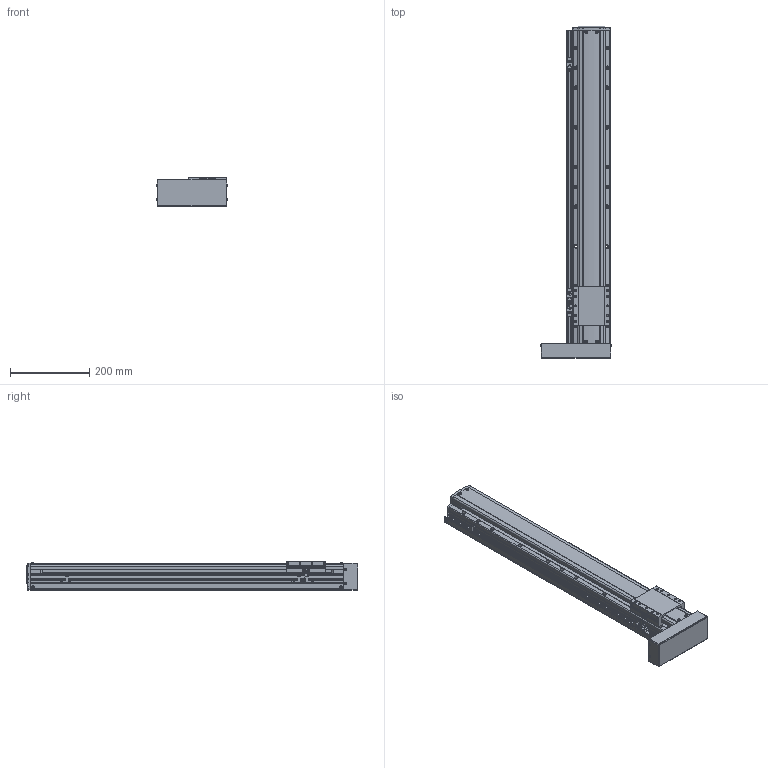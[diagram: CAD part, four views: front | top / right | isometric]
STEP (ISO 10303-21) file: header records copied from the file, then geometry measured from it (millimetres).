
FILE_DESCRIPTION(('STEP AP214'),'1');
FILE_NAME('Z:/Web/3D/PSA95/STP/PSA95-600 (3D)/PSA95ㅁㅁ-600PL+3SL.stp','2014-07-03T00:40:05',(' '),(' '),'Spatial InterOp 3D',' ',' ');
FILE_SCHEMA(('automotive_design'));
Length unit declared in the file: millimetre
Products named in the file (41): BASE; RRCV; 스크루 : Round - M4.0 x 10.0; 너트 : Square - M10.0 x 220.7419; RR1500; FRCV-090; 스크루 : Round - M4.0 x 6.0; SLBL-PA90; MOTOR PLATE COVER; 스크루 : Round - M3.0 x 6.0; EE-SX674; SBK-SX674-352; M3.0 x 6.0; SRL-16x17-380L; SGD-PA95; 스크루 : Round - M3.0 x 8.0
Bounding box: 179.13 x 836.5 x 74 mm (x, y, z)
Volume: 4820590.2 mm3; surface area: 578146.7 mm2
Topology: 41 solids, 41 shells, 2420 faces, 6454 edges, 4142 vertices
Faces by surface type: plane 1408, cylinder 691, cone 221, sphere 62, bspline 24, torus 14
Entity records: 97116 total; most frequent: CARTESIAN_POINT 16116, DIRECTION 12840, ORIENTED_EDGE 12636, EDGE_CURVE 6318, LINE 4320, VECTOR 4320, AXIS2_PLACEMENT_3D 4260, VERTEX_POINT 4142
